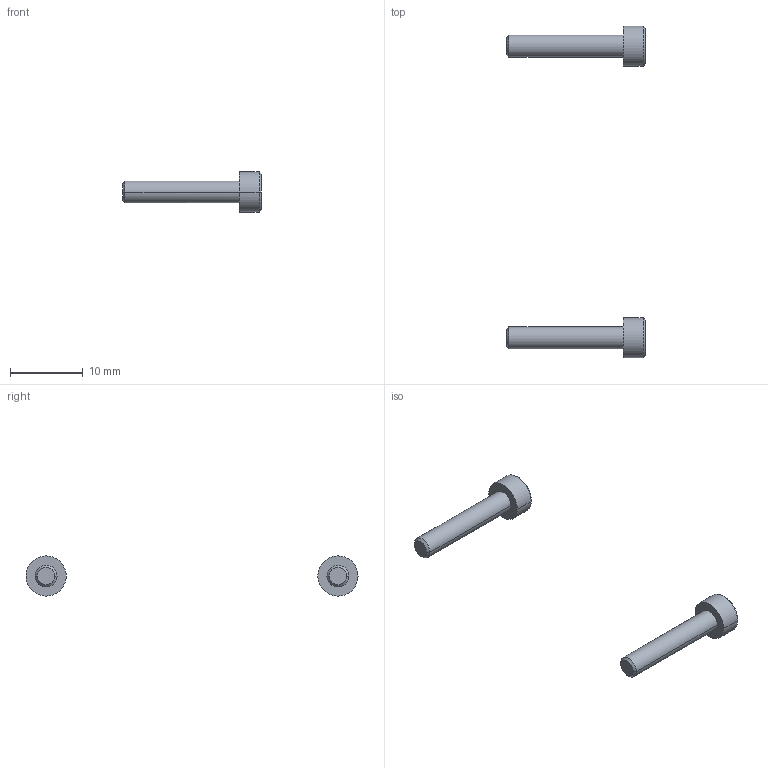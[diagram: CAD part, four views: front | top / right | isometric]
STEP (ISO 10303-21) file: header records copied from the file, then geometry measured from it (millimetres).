
FILE_DESCRIPTION(/* description */ (''),/* implementation_level */ '2;1');
FILE_NAME(/* name */ '9.electronics#9.4#CB3-16',/* time_stamp */ '2014-12-01T20:18:49+01:00',/* author */ (''),/* organization */ (''),/* preprocessor_version */ 'ST-DEVELOPER v14',/* originating_system */ '',/* authorisation */ '');
FILE_SCHEMA (('AUTOMOTIVE_DESIGN'));
Length unit declared in the file: millimetre
Products named in the file (1): Document
Bounding box: 19 x 45.5 x 5.49 mm (x, y, z)
Volume: 349.5 mm3; surface area: 517.1 mm2
Topology: 2 solids, 2 shells, 50 faces, 112 edges, 66 vertices
Faces by surface type: plane 30, bspline 20
Entity records: 2731 total; most frequent: CARTESIAN_POINT 1257, B_SPLINE_CURVE_WITH_KNOTS 252, ORIENTED_EDGE 216, PCURVE 216, DEFINITIONAL_REPRESENTATION 216, SURFACE_CURVE 108, EDGE_CURVE 108, VERTEX_POINT 66
